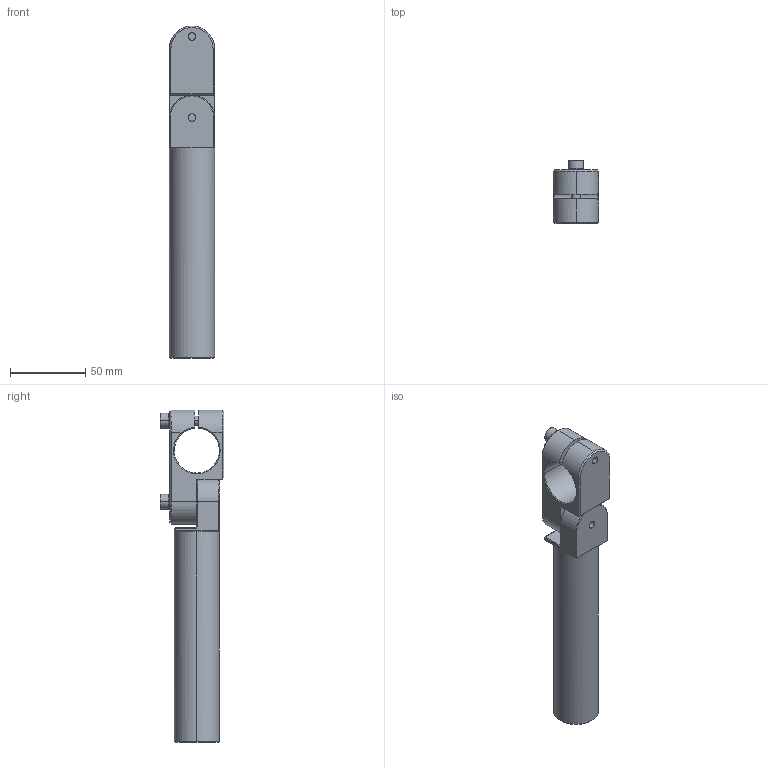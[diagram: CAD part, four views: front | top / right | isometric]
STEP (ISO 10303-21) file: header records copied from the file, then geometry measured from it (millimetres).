
FILE_DESCRIPTION (( 'STEP AP214' ), '1' );
FILE_NAME ('SEA-3030L140T.STEP', '2023-02-01T01:50:04', ( 'Windows User' ), ( 'P R C' ), 'SwSTEP 2.0', 'SolidWorks 2019', '' );
FILE_SCHEMA (( 'AUTOMOTIVE_DESIGN' ));
Length unit declared in the file: millimetre
Products named in the file (5): SEA-3030L140.2; PTC-M6L20; SEA-3030L140T; PTS-M6; SEA-3030L140.1
Assembly tree (6 placements, depth 2):
  SEA-3030L140T
    SEA-3030L140.1
    SEA-3030L140.2
    PTC-M6L20  x2
    PTS-M6  x2
Bounding box: 30 x 42.45 x 221 mm (x, y, z)
Volume: 105712.1 mm3; surface area: 40663.7 mm2
Topology: 6 solids, 6 shells, 459 faces, 1275 edges, 829 vertices
Faces by surface type: plane 387, cylinder 37, cone 31, bspline 4
Entity records: 9455 total; most frequent: CARTESIAN_POINT 2126, DIRECTION 1529, ORIENTED_EDGE 1482, EDGE_CURVE 741, AXIS2_PLACEMENT_3D 526, LINE 477, VECTOR 477, VERTEX_POINT 475
